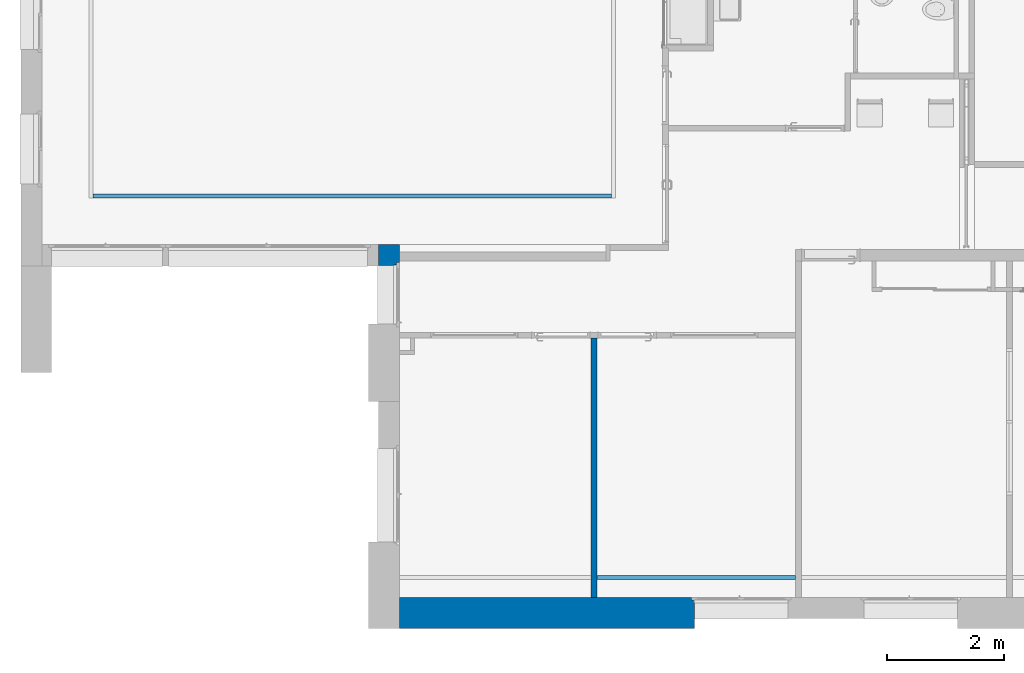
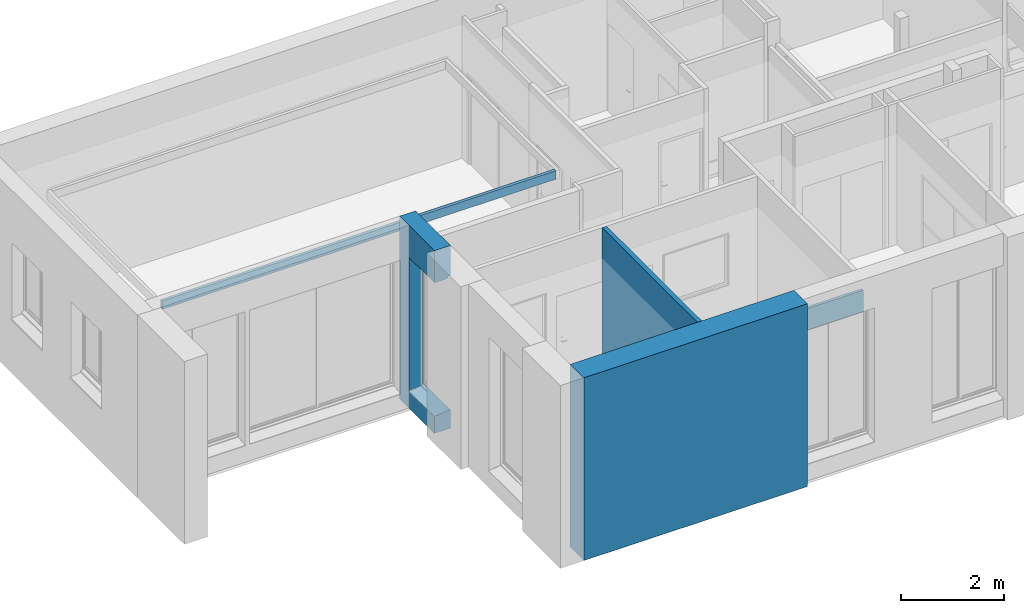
# One storey, part 4 of 32: 5 walls, 2 openings.
"""IFC2X3 building model written with IfcOpenShell, lengths in metres."""

from ifc_helpers import new_model, entity, si_unit, converted_unit, derived_unit, direction, frame, frame_2d, origin, place, context, subcontext, project, spatial, rectangle, extrude, faceted_brep, material, layer, layer_set, layer_usage, type_object, element, save


model = new_model("IFC2X3")

# Units and contexts
model_context = context("Model", 3, precision=1e-05, world=origin(), true_north=direction((6.12303176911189e-17, 1.0)))
plan_context = context("Plan", 3, precision=1e-05, world=origin(), true_north=direction((6.12303176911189e-17, 1.0)))
body_context = subcontext(model_context, "Body", "Model", "MODEL_VIEW")
ifc_project = project(units=[si_unit("LENGTHUNIT", "METRE"), si_unit("AREAUNIT", "SQUARE_METRE"), si_unit("VOLUMEUNIT", "CUBIC_METRE"), converted_unit("PLANEANGLEUNIT", "DEGREE", entity("IfcRatioMeasure", 0.0174532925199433), si_unit("PLANEANGLEUNIT", "RADIAN"), dimensions=[0, 0, 0, 0, 0, 0, 0]), si_unit("MASSUNIT", "GRAM", prefix="KILO"), derived_unit("MASSDENSITYUNIT", [(si_unit("MASSUNIT", "GRAM", prefix="KILO"), 1), (si_unit("LENGTHUNIT", "METRE"), -3)]), derived_unit("MOMENTOFINERTIAUNIT", [(si_unit("LENGTHUNIT", "METRE"), 4)]), si_unit("TIMEUNIT", "SECOND"), si_unit("FREQUENCYUNIT", "HERTZ"), si_unit("THERMODYNAMICTEMPERATUREUNIT", "DEGREE_CELSIUS"), derived_unit("THERMALTRANSMITTANCEUNIT", [(si_unit("MASSUNIT", "GRAM", prefix="KILO"), 1), (si_unit("THERMODYNAMICTEMPERATUREUNIT", "KELVIN"), -1), (si_unit("TIMEUNIT", "SECOND"), -3)]), derived_unit("VOLUMETRICFLOWRATEUNIT", [(si_unit("LENGTHUNIT", "METRE"), 3), (si_unit("TIMEUNIT", "SECOND"), -1)]), si_unit("ELECTRICCURRENTUNIT", "AMPERE"), si_unit("ELECTRICVOLTAGEUNIT", "VOLT"), si_unit("POWERUNIT", "WATT"), si_unit("FORCEUNIT", "NEWTON", prefix="KILO"), si_unit("ILLUMINANCEUNIT", "LUX"), si_unit("LUMINOUSFLUXUNIT", "LUMEN"), si_unit("LUMINOUSINTENSITYUNIT", "CANDELA"), derived_unit("USERDEFINED", [(si_unit("MASSUNIT", "GRAM", prefix="KILO"), -1), (si_unit("LENGTHUNIT", "METRE"), -2), (si_unit("TIMEUNIT", "SECOND"), 3), (si_unit("LUMINOUSFLUXUNIT", "LUMEN"), 1)]), derived_unit("LINEARVELOCITYUNIT", [(si_unit("LENGTHUNIT", "METRE"), 1), (si_unit("TIMEUNIT", "SECOND"), -1)]), si_unit("PRESSUREUNIT", "PASCAL"), derived_unit("USERDEFINED", [(si_unit("LENGTHUNIT", "METRE"), -2), (si_unit("MASSUNIT", "GRAM", prefix="KILO"), 1), (si_unit("TIMEUNIT", "SECOND"), -2)]), derived_unit("LINEARFORCEUNIT", [(si_unit("MASSUNIT", "GRAM", prefix="KILO"), 1), (si_unit("LENGTHUNIT", "METRE"), 1), (si_unit("TIMEUNIT", "SECOND"), -2), (si_unit("LENGTHUNIT", "METRE"), -1)]), derived_unit("PLANARFORCEUNIT", [(si_unit("MASSUNIT", "GRAM", prefix="KILO"), 1), (si_unit("LENGTHUNIT", "METRE"), 1), (si_unit("TIMEUNIT", "SECOND"), -2), (si_unit("LENGTHUNIT", "METRE"), -2)])], contexts=[model_context, plan_context])

# Site, building, storey
site_placement = place(None, origin())
site = spatial("IfcSite", under=ifc_project, at=site_placement, Name="Default", CompositionType="ELEMENT")
building_placement = place(site_placement, origin())
building = spatial("IfcBuilding", under=site, at=building_placement, CompositionType="ELEMENT")
storey_placement = place(building_placement, origin())
storey = spatial("IfcBuildingStorey", under=building, at=storey_placement, Name="0 Mairie RDC 0.00", CompositionType="ELEMENT", Elevation=-1.94916083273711e-14)

# Walls
ifc_material_1 = material(Name="Plâtre")
ifc_layer_1 = layer(ifc_material_1, 0.0125)
ifc_layer_2 = layer(ifc_material_1, 0.0125)
ifc_material_2 = material(Name="Maçonnerie - Isolant")
ifc_layer_3 = layer(ifc_material_2, 0.05)
ifc_layer_4 = layer(ifc_material_1, 0.0125)
ifc_layer_5 = layer(ifc_material_1, 0.0125)
ifc_layer_set_1 = layer_set([ifc_layer_1, ifc_layer_2, ifc_layer_3, ifc_layer_4, ifc_layer_5], Name="Mur de base:A cloison placostil 98 sèche")
ifc_layer_usage_1 = layer_usage(ifc_layer_set_1, "AXIS2", "NEGATIVE", 0.05)
wall_type_1 = type_object("IfcWallType", Name="Murs : Mur de base : A cloison placostil 98 sèche", PredefinedType="STANDARD", material=ifc_layer_set_1)
wall_1_placement = place(storey_placement, frame((-20.4521562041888, -13.9785662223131, 0.0), z_axis=(0.0, 0.0, 1.0), x_axis=(0.0, 1.0, 0.0)))
element("IfcWallStandardCase", 1, at=wall_1_placement, inside=storey, type_object=wall_type_1, material=ifc_layer_usage_1, Name="Murs : Mur de base : A cloison placostil 98 sèche", ObjectType="Mur de base:A cloison placostil 98 sèche", context=body_context, shape_type="SweptSolid", body=[
    extrude(rectangle(XDim=4.42948868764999, YDim=0.100000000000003, at=frame_2d((2.214744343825, 0.0), x_axis=(-1.0, 0.0))), origin(), (0.0, 0.0, 1.0), 3.37),
])
ifc_layer_6 = layer(ifc_material_1, 0.01)
ifc_layer_7 = layer(ifc_material_2, 0.05)
ifc_layer_8 = layer(ifc_material_1, 0.01)
ifc_layer_set_2 = layer_set([ifc_layer_6, ifc_layer_7, ifc_layer_8], Name="Mur de base:A cloison placostil 72 sèche")
ifc_layer_usage_2 = layer_usage(ifc_layer_set_2, "AXIS2", "POSITIVE", -0.035)
wall_type_2 = type_object("IfcWallType", Name="Murs : Mur de base : A cloison placostil 72 sèche", PredefinedType="STANDARD", material=ifc_layer_set_2)
wall_2_placement = place(storey_placement, frame((-29.0170149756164, -7.1180211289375, 2.95)))
element("IfcWallStandardCase", 2, at=wall_2_placement, inside=storey, type_object=wall_type_2, material=ifc_layer_usage_2, Name="Murs : Mur de base : A cloison placostil 72 sèche", ObjectType="Mur de base:A cloison placostil 72 sèche", context=body_context, shape_type="SweptSolid", body=[
    extrude(rectangle(XDim=8.86483263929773, YDim=0.0699999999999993, at=frame_2d((4.43241631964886, 1.04083408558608e-16), x_axis=(-1.0, 0.0))), origin(), (0.0, 0.0, 1.0), 0.2),
])
ifc_layer_usage_3 = layer_usage(ifc_layer_set_2, "AXIS2", "POSITIVE", -0.035)
wall_3_placement = place(storey_placement, frame((-20.4021562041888, -13.6435662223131, 2.65)))
element("IfcWallStandardCase", 3, at=wall_3_placement, inside=storey, type_object=wall_type_2, material=ifc_layer_usage_3, Name="Murs : Mur de base : A cloison placostil 72 sèche", ObjectType="Mur de base:A cloison placostil 72 sèche", context=body_context, shape_type="SweptSolid", body=[
    extrude(rectangle(XDim=3.39671004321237, YDim=0.0700000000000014, at=frame_2d((1.69835502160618, 7.97972798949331e-17), x_axis=(-1.0, 0.0))), origin(), (0.0, 0.0, 1.0), 0.510000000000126),
])

# Wall, opening
ifc_material_3 = material(Name="Maçonnerie - Enduit")
ifc_layer_9 = layer(ifc_material_3, 0.02)
ifc_material_4 = material(Name="Béton, coulé sur place")
ifc_layer_10 = layer(ifc_material_4, 0.2)
ifc_material_5 = material(Name="Vide")
ifc_layer_11 = layer(ifc_material_5, 0.01)
ifc_layer_12 = layer(ifc_material_2, 0.12)
ifc_layer_13 = layer(ifc_material_1, 0.01)
ifc_layer_set_3 = layer_set([ifc_layer_9, ifc_layer_10, ifc_layer_11, ifc_layer_12, ifc_layer_13], Name="Mur de base:A Enduit 2 + Béton 20 + vide 1 +  Doublage 13")
ifc_layer_usage_4 = layer_usage(ifc_layer_set_3, "AXIS2", "POSITIVE", -0.18)
wall_type_3 = type_object("IfcWallType", Name="Murs : Mur de base : A Enduit 2 + Béton 20 + vide 1 +  Doublage 13", PredefinedType="STANDARD", material=ifc_layer_set_3)
wall_4_placement = place(storey_placement, frame((-23.9582803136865, -7.95302112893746, -0.400000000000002), z_axis=(0.0, 0.0, 1.0), x_axis=(0.0, -1.0, 0.0)))
wall_4 = element("IfcWallStandardCase", 4, at=wall_4_placement, inside=storey, type_object=wall_type_3, material=ifc_layer_usage_4, Name="Murs : Mur de base : A Enduit 2 + Béton 20 + vide 1 +  Doublage 13", ObjectType="Mur de base:A Enduit 2 + Béton 20 + vide 1 +  Doublage 13", context=body_context, shape_type="SweptSolid", body=[
    extrude(rectangle(XDim=1.35699999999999, YDim=0.359999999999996, at=frame_2d((0.678499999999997, -1.59594559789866e-15), x_axis=(-1.0, 0.0))), origin(), (0.0, 0.0, 1.0), 4.35000000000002),
])
opening_1_placement = place(wall_4_placement, frame((1.407, -0.500000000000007, 0.400000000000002), z_axis=(0.0, 0.0, 1.0), x_axis=(0.0, 1.0, 0.0)))
element("IfcOpeningElement", 5, at=opening_1_placement, cuts=wall_4, Name="Murs : Mur de base : A Enduit 2 + Béton 20 + vide 1 +  Doublage 13", ObjectType="Opening", context=body_context, shape_type="Brep", body=[
    faceted_brep([(0.599999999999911, 0.0500000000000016, 0.0349999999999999), (0.580000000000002, 0.0500000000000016, 0.0350000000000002), (0.580000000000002, 0.0500000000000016, 3.185), (0.0, 0.0500000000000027, 3.185), (0.0, 0.0500000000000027, 0.0), (0.266997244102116, 0.0500000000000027, 0.0), (1.0, 1.05, 0.035), (0.680000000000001, 1.05, 0.035), (0.680000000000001, 1.05, 3.185), (1.0, 1.05, 3.185), (1.0, 0.0500000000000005, 0.035), (0.680000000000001, 0.0500000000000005, 0.035), (0.680000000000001, 0.0, 0.035), (0.630000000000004, 0.0, 0.035), (0.630000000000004, 0.0400000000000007, 0.035), (0.580000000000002, 0.0400000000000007, 0.035), (0.599999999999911, 1.05, 0.0349999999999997), (0.580000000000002, 1.05, 0.035), (0.580000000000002, 1.06, 0.035), (0.630000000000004, 1.06, 0.035), (0.630000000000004, 1.1, 0.035), (0.680000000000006, 1.1, 0.035), (1.0, 0.0500000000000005, 3.185), (0.579999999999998, 1.05, 3.185), (0.0, 1.05, 3.185), (0.0, 1.05, 0.0), (0.266997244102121, 1.05, 0.0), (0.680000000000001, 0.0, 3.235), (0.630000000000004, 0.0, 3.235), (0.630000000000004, 1.1, 3.235), (0.630000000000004, 1.06, 3.195), (0.630000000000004, 0.0400000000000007, 3.195), (0.580000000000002, 0.0400000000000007, 3.195), (0.580000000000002, 1.06, 3.195), (0.680000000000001, 0.0500000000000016, 3.185), (0.680000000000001, 1.1, 3.235)], [[[0, 1, 2, 3, 4, 5]], [[6, 7, 8, 9]], [[10, 11, 12, 13, 14, 15, 1, 0, 16, 17, 18, 19, 20, 21, 7, 6]], [[10, 6, 9, 22]], [[3, 2, 23, 24]], [[3, 24, 25, 4]], [[4, 25, 26, 5]], [[5, 26, 16, 0]], [[12, 27, 28, 13]], [[13, 28, 29, 20, 19, 30, 31, 14]], [[14, 31, 32, 15]], [[15, 32, 33, 18, 17, 23, 2, 1]], [[11, 34, 8, 7, 21, 35, 27, 12]], [[27, 35, 29, 28]], [[30, 33, 32, 31]], [[29, 35, 21, 20]], [[19, 18, 33, 30]], [[9, 8, 34, 22]], [[24, 23, 17, 16, 26, 25]], [[22, 34, 11, 10]]]),
])

ifc_material_6 = material(Name="Moellons")
ifc_layer_14 = layer(ifc_material_6, 0.19)
ifc_layer_15 = layer(ifc_material_4, 0.2)
ifc_layer_16 = layer(ifc_material_5, 0.01)
ifc_layer_17 = layer(ifc_material_2, 0.12)
ifc_layer_18 = layer(ifc_material_1, 0.01)
ifc_layer_set_4 = layer_set([ifc_layer_14, ifc_layer_15, ifc_layer_16, ifc_layer_17, ifc_layer_18], Name="Mur de base:A Parement pierre 19 + Béton 20 + vide 1 +   Doublage 14")
ifc_layer_usage_5 = layer_usage(ifc_layer_set_4, "AXIS2", "POSITIVE", -0.265)
wall_type_4 = type_object("IfcWallType", Name="Murs : Mur de base : A Parement pierre 19 + Béton 20 + vide 1 +   Doublage 14", PredefinedType="STANDARD", material=ifc_layer_set_4)
wall_5_placement = place(storey_placement, frame((-23.7782803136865, -14.243566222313, -0.400000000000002)))
wall_5 = element("IfcWallStandardCase", 6, at=wall_5_placement, inside=storey, type_object=wall_type_4, material=ifc_layer_usage_5, Name="Murs : Mur de base : A Parement pierre 19 + Béton 20 + vide 1 +   Doublage 14", ObjectType="Mur de base:A Parement pierre 19 + Béton 20 + vide 1 +   Doublage 14", context=body_context, shape_type="SweptSolid", body=[
    extrude(rectangle(XDim=5.03964472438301, YDim=0.530000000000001, at=frame_2d((2.51982236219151, 2.22044604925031e-16), x_axis=(-1.0, 0.0))), origin(), (0.0, 0.0, 1.0), 4.35000000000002),
])
opening_2_placement = place(wall_5_placement, frame((4.98964472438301, -0.415000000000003, 0.400000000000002)))
element("IfcOpeningElement", 7, at=opening_2_placement, cuts=wall_5, Name="Murs : Mur de base : A Parement pierre 19 + Béton 20 + vide 1 +   Doublage 14", ObjectType="Opening", context=body_context, shape_type="Brep", body=[
    faceted_brep([(1.65, 0.599999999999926, 0.035), (1.65, 0.580000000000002, 0.035), (1.65, 0.580000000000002, 3.185), (1.65, 0.0, 3.185), (1.65, 0.0, 0.0), (1.65, 0.266997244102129, 0.0), (0.0499999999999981, 1.0, 0.0350000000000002), (0.0499999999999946, 0.680000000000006, 0.0350000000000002), (0.0499999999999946, 0.680000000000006, 3.185), (0.0499999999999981, 1.0, 3.185), (1.65, 1.0, 0.0350000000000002), (1.64999999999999, 0.680000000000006, 0.0350000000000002), (1.7, 0.680000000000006, 0.0350000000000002), (1.7, 0.630000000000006, 0.0350000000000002), (1.66, 0.630000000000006, 0.0350000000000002), (1.66, 0.580000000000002, 0.0350000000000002), (0.0499999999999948, 0.599999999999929, 0.0349999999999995), (0.0499999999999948, 0.580000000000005, 0.0350000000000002), (0.0399999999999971, 0.580000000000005, 0.0350000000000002), (0.039999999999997, 0.630000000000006, 0.0350000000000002), (0.0, 0.630000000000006, 0.0350000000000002), (0.0, 0.680000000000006, 0.0350000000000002), (1.65, 1.0, 3.185), (0.0499999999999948, 0.580000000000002, 3.185), (0.0499999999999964, 0.0, 3.185), (0.0499999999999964, 0.0, 0.0), (0.0499999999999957, 0.266997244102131, 0.0), (1.7, 0.680000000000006, 3.235), (1.7, 0.630000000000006, 3.235), (0.0, 0.630000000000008, 3.235), (0.039999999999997, 0.630000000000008, 3.195), (1.66, 0.630000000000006, 3.195), (1.66, 0.580000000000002, 3.195), (0.0399999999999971, 0.580000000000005, 3.195), (1.64999999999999, 0.680000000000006, 3.185), (0.0, 0.680000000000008, 3.235)], [[[0, 1, 2, 3, 4, 5]], [[6, 7, 8, 9]], [[10, 11, 12, 13, 14, 15, 1, 0, 16, 17, 18, 19, 20, 21, 7, 6]], [[10, 6, 9, 22]], [[3, 2, 23, 24]], [[3, 24, 25, 4]], [[4, 25, 26, 5]], [[5, 26, 16, 0]], [[12, 27, 28, 13]], [[13, 28, 29, 20, 19, 30, 31, 14]], [[14, 31, 32, 15]], [[15, 32, 33, 18, 17, 23, 2, 1]], [[11, 34, 8, 7, 21, 35, 27, 12]], [[27, 35, 29, 28]], [[30, 33, 32, 31]], [[29, 35, 21, 20]], [[19, 18, 33, 30]], [[9, 8, 34, 22]], [[24, 23, 17, 16, 26, 25]], [[22, 34, 11, 10]]]),
])

save(model, "model.ifc")
